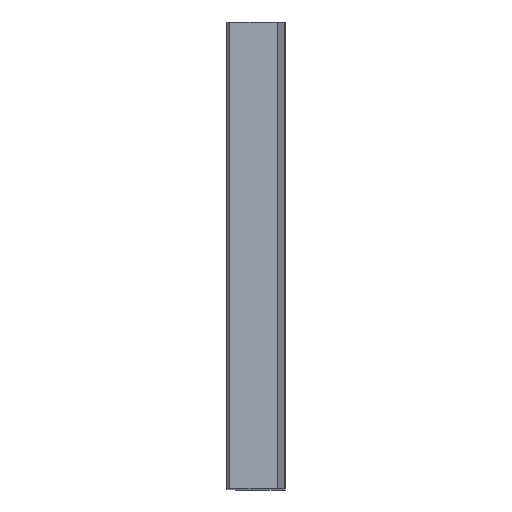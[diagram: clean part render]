
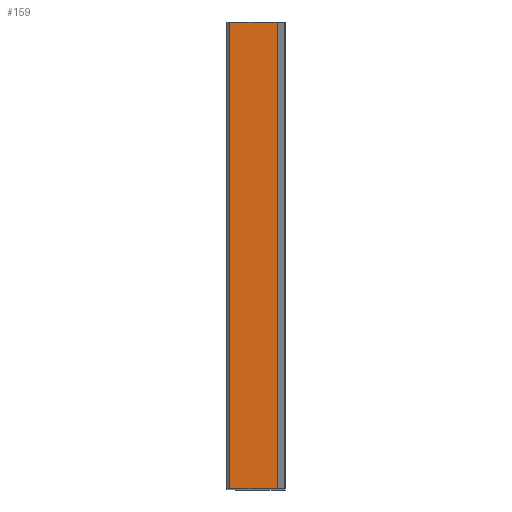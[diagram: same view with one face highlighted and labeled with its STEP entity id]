
A CAD part, top view. The second image highlights one B-rep face of the part: STEP entity #159.
In plain terms, the highlighted planar face has unit normal (0, 0, 1).
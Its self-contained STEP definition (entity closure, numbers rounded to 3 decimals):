
#13 = CARTESIAN_POINT ( 'NONE',  ( 9.16, 80., 250. ) ) ;
#82 = ORIENTED_EDGE ( 'NONE', *, *, #345, .F. ) ;
#97 = ORIENTED_EDGE ( 'NONE', *, *, #981, .F. ) ;
#98 = DIRECTION ( 'NONE',  ( 1., 0., 0. ) ) ;
#125 = LINE ( 'NONE', #216, #477 ) ;
#159 = ADVANCED_FACE ( 'NONE', ( #988 ), #884, .T. ) ;
#185 = EDGE_CURVE ( 'NONE', #352, #1031, #125, .T. ) ;
#191 = CARTESIAN_POINT ( 'NONE',  ( 1., 80., 250. ) ) ;
#203 = EDGE_LOOP ( 'NONE', ( #370, #687, #82, #97 ) ) ;
#216 = CARTESIAN_POINT ( 'NONE',  ( 17.321, 0., 250. ) ) ;
#267 = DIRECTION ( 'NONE',  ( 0., 1., 0. ) ) ;
#280 = VECTOR ( 'NONE', #580, 1000. ) ;
#297 = LINE ( 'NONE', #590, #280 ) ;
#345 = EDGE_CURVE ( 'NONE', #560, #1031, #889, .T. ) ;
#348 = CARTESIAN_POINT ( 'NONE',  ( 1., -80., 250. ) ) ;
#352 = VERTEX_POINT ( 'NONE', #907 ) ;
#370 = ORIENTED_EDGE ( 'NONE', *, *, #497, .T. ) ;
#395 = DIRECTION ( 'NONE',  ( 1., 0., 0. ) ) ;
#477 = VECTOR ( 'NONE', #267, 1000. ) ;
#497 = EDGE_CURVE ( 'NONE', #902, #352, #297, .T. ) ;
#544 = CARTESIAN_POINT ( 'NONE',  ( 1., 0., 250. ) ) ;
#560 = VERTEX_POINT ( 'NONE', #191 ) ;
#580 = DIRECTION ( 'NONE',  ( 1., 0., 0. ) ) ;
#582 = AXIS2_PLACEMENT_3D ( 'NONE', #544, #751, #98 ) ;
#590 = CARTESIAN_POINT ( 'NONE',  ( 9.16, -80., 250. ) ) ;
#611 = VECTOR ( 'NONE', #1017, 1000. ) ;
#687 = ORIENTED_EDGE ( 'NONE', *, *, #185, .T. ) ;
#690 = VECTOR ( 'NONE', #395, 1000. ) ;
#751 = DIRECTION ( 'NONE',  ( 0., 0., 1. ) ) ;
#884 = PLANE ( 'NONE',  #582 ) ;
#889 = LINE ( 'NONE', #13, #690 ) ;
#902 = VERTEX_POINT ( 'NONE', #348 ) ;
#907 = CARTESIAN_POINT ( 'NONE',  ( 17.321, -80., 250. ) ) ;
#928 = LINE ( 'NONE', #1028, #611 ) ;
#979 = CARTESIAN_POINT ( 'NONE',  ( 17.321, 80., 250. ) ) ;
#981 = EDGE_CURVE ( 'NONE', #902, #560, #928, .T. ) ;
#988 = FACE_OUTER_BOUND ( 'NONE', #203, .T. ) ;
#1017 = DIRECTION ( 'NONE',  ( 0., 1., 0. ) ) ;
#1028 = CARTESIAN_POINT ( 'NONE',  ( 1., 0., 250. ) ) ;
#1031 = VERTEX_POINT ( 'NONE', #979 ) ;
